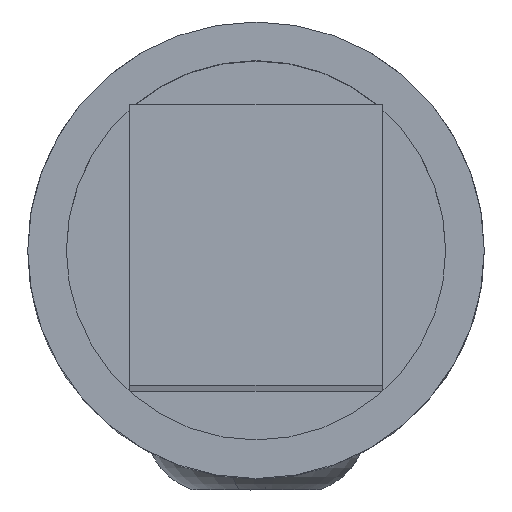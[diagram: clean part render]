
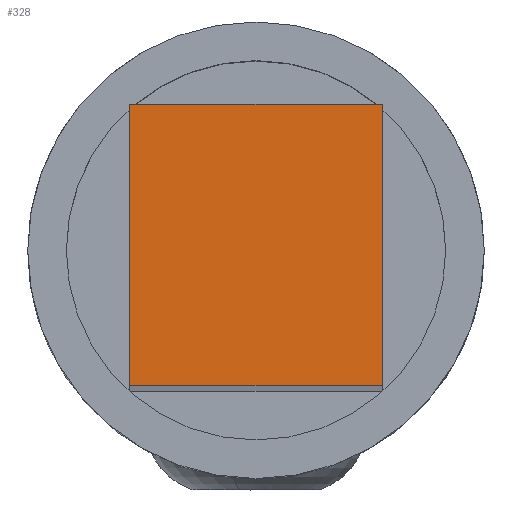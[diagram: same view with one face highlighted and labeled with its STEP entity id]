
A CAD part, top view. The second image highlights one B-rep face of the part: STEP entity #328.
In plain terms, the highlighted planar face has unit normal (0, 0, 1).
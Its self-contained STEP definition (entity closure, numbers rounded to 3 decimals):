
#5 = LINE ( 'NONE', #1293, #1129 ) ;
#26 = EDGE_CURVE ( 'NONE', #1374, #737, #297, .T. ) ;
#75 = EDGE_CURVE ( 'NONE', #281, #1179, #5, .T. ) ;
#173 = CARTESIAN_POINT ( 'NONE',  ( 1.8, 2., 50. ) ) ;
#175 = DIRECTION ( 'NONE',  ( 0., -1., 0. ) ) ;
#179 = EDGE_CURVE ( 'NONE', #1179, #1374, #504, .T. ) ;
#281 = VERTEX_POINT ( 'NONE', #1285 ) ;
#297 = LINE ( 'NONE', #548, #974 ) ;
#328 = ADVANCED_FACE ( 'NONE', ( #1051 ), #845, .T. ) ;
#393 = CARTESIAN_POINT ( 'NONE',  ( 1.8, -2., 50. ) ) ;
#504 = LINE ( 'NONE', #1059, #540 ) ;
#540 = VECTOR ( 'NONE', #175, 1000. ) ;
#548 = CARTESIAN_POINT ( 'NONE',  ( -1.8, -2., 50. ) ) ;
#646 = CARTESIAN_POINT ( 'NONE',  ( -1.8, -2., 50. ) ) ;
#737 = VERTEX_POINT ( 'NONE', #1349 ) ;
#845 = PLANE ( 'NONE',  #1100 ) ;
#953 = ORIENTED_EDGE ( 'NONE', *, *, #1301, .T. ) ;
#974 = VECTOR ( 'NONE', #1425, 1000. ) ;
#1002 = ORIENTED_EDGE ( 'NONE', *, *, #179, .T. ) ;
#1017 = DIRECTION ( 'NONE',  ( 1., 0., 0. ) ) ;
#1051 = FACE_OUTER_BOUND ( 'NONE', #1196, .T. ) ;
#1059 = CARTESIAN_POINT ( 'NONE',  ( -1.8, 2., 50. ) ) ;
#1100 = AXIS2_PLACEMENT_3D ( 'NONE', #393, #1700, #1017 ) ;
#1129 = VECTOR ( 'NONE', #1901, 1000. ) ;
#1179 = VERTEX_POINT ( 'NONE', #1403 ) ;
#1189 = DIRECTION ( 'NONE',  ( 0., 1., 0. ) ) ;
#1196 = EDGE_LOOP ( 'NONE', ( #953, #1734, #1002, #1526 ) ) ;
#1253 = VECTOR ( 'NONE', #1189, 1000. ) ;
#1285 = CARTESIAN_POINT ( 'NONE',  ( 1.8, 2., 50. ) ) ;
#1293 = CARTESIAN_POINT ( 'NONE',  ( 1.8, 2., 50. ) ) ;
#1301 = EDGE_CURVE ( 'NONE', #737, #281, #1647, .T. ) ;
#1349 = CARTESIAN_POINT ( 'NONE',  ( 1.8, -2., 50. ) ) ;
#1374 = VERTEX_POINT ( 'NONE', #646 ) ;
#1403 = CARTESIAN_POINT ( 'NONE',  ( -1.8, 2., 50. ) ) ;
#1425 = DIRECTION ( 'NONE',  ( 1., 0., 0. ) ) ;
#1526 = ORIENTED_EDGE ( 'NONE', *, *, #26, .T. ) ;
#1647 = LINE ( 'NONE', #173, #1253 ) ;
#1700 = DIRECTION ( 'NONE',  ( 0., 0., 1. ) ) ;
#1734 = ORIENTED_EDGE ( 'NONE', *, *, #75, .T. ) ;
#1901 = DIRECTION ( 'NONE',  ( -1., 0., 0. ) ) ;
